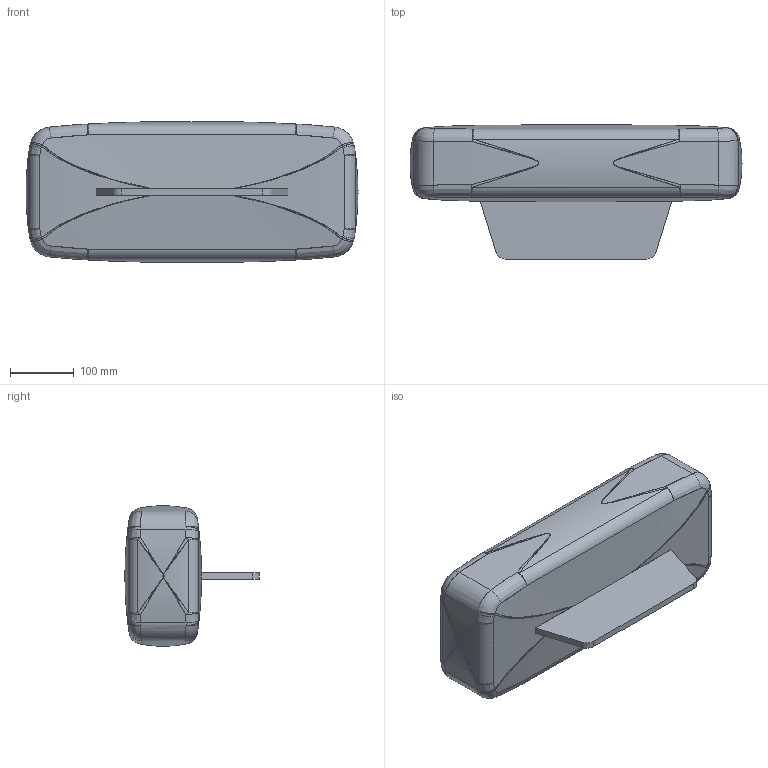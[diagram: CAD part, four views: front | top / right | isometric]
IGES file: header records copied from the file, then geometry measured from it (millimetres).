
Start section: SolidWorks IGES file using analytic representation for surfaces
Global section: file name: \\Logicserver\datos\01-VICCARBE\PRODUCTOS\53-SISTEMA\04-MODELADOS (PLANOS)\WEB\viccarbe-sistema-3D\Modulos\Brazo auxiliar.IGS; native system: SolidWorks 2013; preprocessor: SolidWorks 2013; author: bdisenyo; date: 170120.124118; units: millimetre
Bounding box: 520.01 x 210 x 220 mm (x, y, z)
Surface area: 389029.1 mm2 (no closed solid volume)
Topology: 0 solids, 0 shells, 127 faces, 1750 edges, 1734 vertices
Faces by surface type: bspline 79, revolution 48
